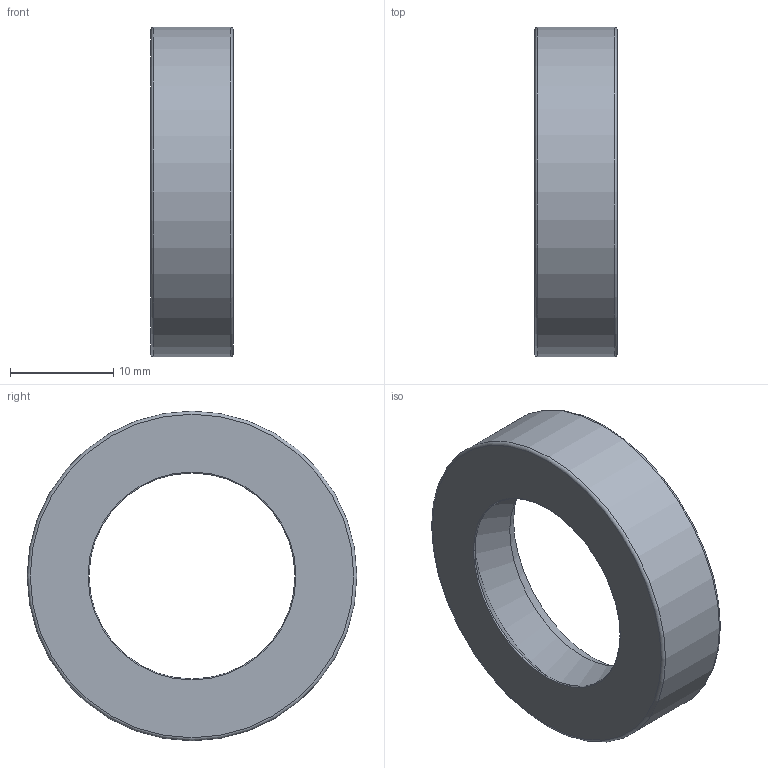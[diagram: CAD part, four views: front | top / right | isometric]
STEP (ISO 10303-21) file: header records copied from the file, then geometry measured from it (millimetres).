
FILE_DESCRIPTION(/* description */ ('오일-실'),/* implementation_level */ '2;1');
FILE_NAME(/* name */ '',/* time_stamp */ '2025-08-05T11:20:14+09:00',/* author */ ('jhkim'),/* organization */ (''),/* preprocessor_version */ 'ST-DEVELOPER v20.1',/* originating_system */ 'Autodesk Inventor 2026',/* authorisation */ '');
FILE_SCHEMA (('AUTOMOTIVE_DESIGN { 1 0 10303 214 3 1 1 }'));
Length unit declared in the file: millimetre
Products named in the file (1): 오일 실
Bounding box: 8 x 32 x 32 mm (x, y, z)
Volume: 2358.5 mm3; surface area: 3147.8 mm2
Topology: 1 solids, 1 shells, 16 faces, 34 edges, 22 vertices
Faces by surface type: torus 5, plane 4, cone 4, cylinder 3
Full cylindrical faces by diameter (mm): 24.2 x1, 28.5 x1, 32 x1
Entity records: 496 total; most frequent: DIRECTION 95, CARTESIAN_POINT 73, ORIENTED_EDGE 68, AXIS2_PLACEMENT_3D 44, EDGE_CURVE 34, CIRCLE 27, VERTEX_POINT 22, EDGE_LOOP 20
